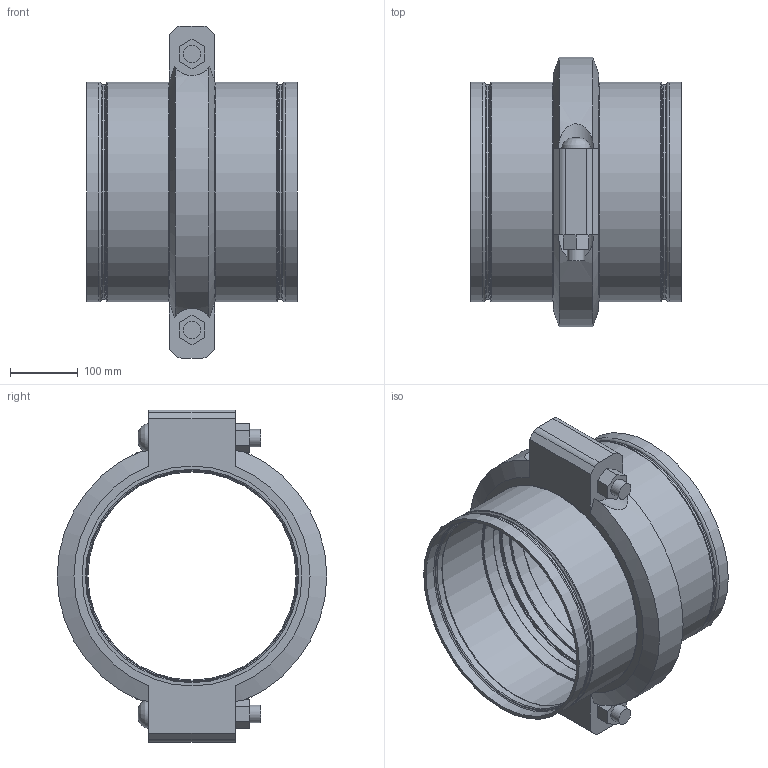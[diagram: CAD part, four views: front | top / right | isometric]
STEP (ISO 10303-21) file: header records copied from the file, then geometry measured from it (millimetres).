
FILE_DESCRIPTION(/* description */ ('VIC STRENGTHIN 100 EXPANSION JOINT 1 COUPLING EXPANDED STYLE E155 (ST1)','CAx-IF Rec.Pracs.---Representation and Presentation of Product Manufacturing Information (PMI)---4.0---2014-10-13'),/* implementation_level */ '2;1');
FILE_NAME(/* name */ 'C:\Users\Vjadhav\AppData\Roaming\Autodesk\ApplicationPlugins\Victaulic.Temp\A475\Victaulic_SS-StrengThin 100_Expansion Joint_Expanded_1 Coupling_Style E155 (ST1)_12 (300).stp',/* time_stamp */ '2021-07-23T19:22:20+06:00',/* author */ ('kkamble'),/* organization */ ('Victaulic'),/* preprocessor_version */ 'ST-DEVELOPER v17.2',/* originating_system */ 'Autodesk Inventor 2019',/* authorisation */ '');
FILE_SCHEMA (('AP242_MANAGED_MODEL_BASED_3D_ENGINEERING_MIM_LF { 1 0 10303 442 1 1 4 }'));
Length unit declared in the file: inch
Products named in the file (3): E155-12.0; E494G-12.0; 077-12.0
Assembly tree (3 placements, depth 2):
  E155-12.0
    E494G-12.0  x2
    077-12.0
Bounding box: 310.39 x 397 x 488.95 mm (x, y, z)
Volume: 4962041.5 mm3; surface area: 980797.3 mm2
Topology: 3 solids, 5 shells, 131 faces, 375 edges, 272 vertices
Faces by surface type: plane 50, cylinder 39, torus 32, cone 8, bspline 2
Full cylindrical faces by diameter (mm): 25.4 x4, 27.432 x2, 306.426 x2, 308.737 x2, 314.3 x6, 314.96 x1, 315.976 x2, 318.287 x2, 323.85 x8
Entity records: 3557 total; most frequent: CARTESIAN_POINT 755, DIRECTION 591, ORIENTED_EDGE 520, EDGE_CURVE 260, AXIS2_PLACEMENT_3D 251, VERTEX_POINT 185, CIRCLE 151, EDGE_LOOP 117
